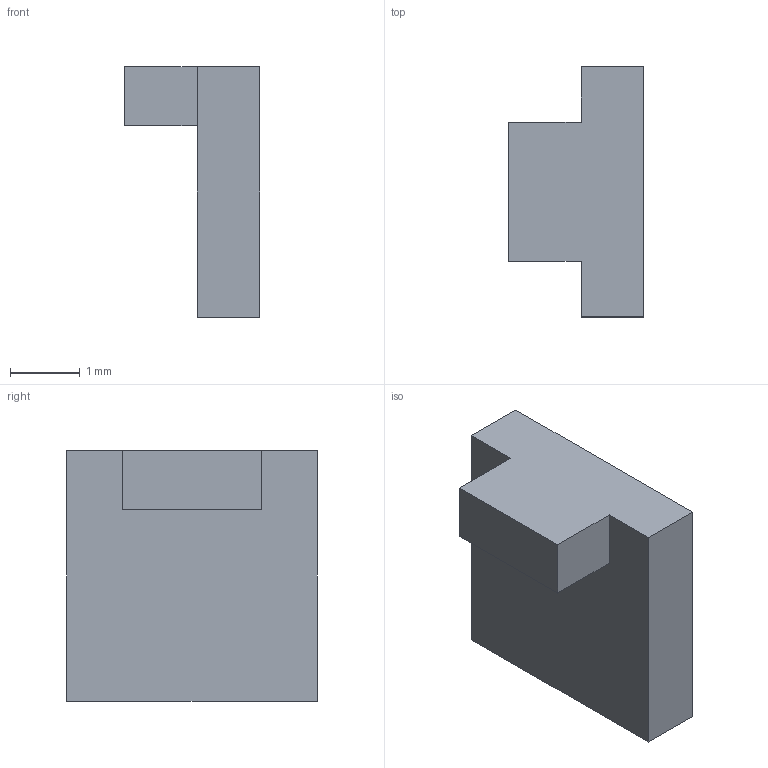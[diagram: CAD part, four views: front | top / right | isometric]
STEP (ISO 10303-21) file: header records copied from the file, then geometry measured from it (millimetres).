
FILE_DESCRIPTION(('Open CASCADE Model'),'2;1');
FILE_NAME('Open CASCADE Shape Model','2026-09-09T11:51:00',('Author'),( 'Open CASCADE'),'Open CASCADE STEP processor 7.7','Open CASCADE 7.7' ,'Unknown');
FILE_SCHEMA(('AUTOMOTIVE_DESIGN { 1 0 10303 214 1 1 1 1 }'));
Length unit declared in the file: millimetre
Products named in the file (1): Open CASCADE STEP translator 7.7 6
Bounding box: 1.95 x 3.6 x 3.6 mm (x, y, z)
Volume: 13.4 mm3; surface area: 44.9 mm2
Topology: 1 solids, 1 shells, 10 faces, 24 edges, 16 vertices
Faces by surface type: plane 10
Entity records: 610 total; most frequent: CARTESIAN_POINT 99, DIRECTION 94, LINE 72, VECTOR 72, ORIENTED_EDGE 48, PCURVE 48, DEFINITIONAL_REPRESENTATION 48, EDGE_CURVE 24
